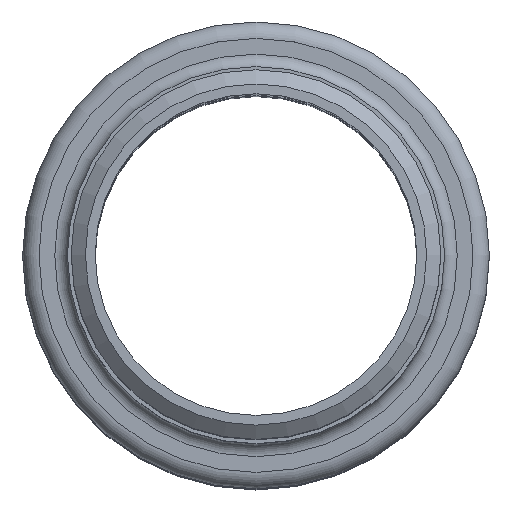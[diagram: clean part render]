
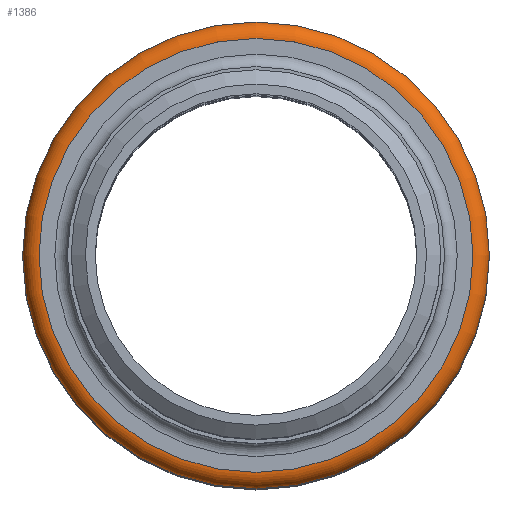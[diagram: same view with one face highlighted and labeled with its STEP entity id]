
A CAD part, top view. The second image highlights one B-rep face of the part: STEP entity #1386.
In plain terms, the highlighted toroidal (fillet/blend) face has major radius 35.414 mm and minor radius 2.686 mm.
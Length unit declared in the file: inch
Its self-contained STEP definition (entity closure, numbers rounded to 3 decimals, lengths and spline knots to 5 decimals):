
#104=TOROIDAL_SURFACE('',#1687,1.39425,0.10575);
#257=FACE_OUTER_BOUND('',#417,.T.);
#417=EDGE_LOOP('',(#1170,#1171,#1172,#1173));
#585=CIRCLE('',#1686,1.39425);
#586=CIRCLE('',#1688,1.39425);
#587=CIRCLE('',#1689,0.10575);
#704=VERTEX_POINT('',#2635);
#705=VERTEX_POINT('',#2638);
#863=EDGE_CURVE('',#704,#704,#585,.T.);
#864=EDGE_CURVE('',#705,#705,#586,.T.);
#865=EDGE_CURVE('',#705,#704,#587,.T.);
#1170=ORIENTED_EDGE('',*,*,#864,.F.);
#1171=ORIENTED_EDGE('',*,*,#865,.T.);
#1172=ORIENTED_EDGE('',*,*,#863,.T.);
#1173=ORIENTED_EDGE('',*,*,#865,.F.);
#1386=ADVANCED_FACE('',(#257),#104,.T.);
#1686=AXIS2_PLACEMENT_3D('',#2636,#2201,#2202);
#1687=AXIS2_PLACEMENT_3D('',#2637,#2203,#2204);
#1688=AXIS2_PLACEMENT_3D('',#2639,#2205,#2206);
#1689=AXIS2_PLACEMENT_3D('',#2640,#2207,#2208);
#2201=DIRECTION('center_axis',(0.,0.,-1.));
#2202=DIRECTION('ref_axis',(1.,0.,0.));
#2203=DIRECTION('center_axis',(0.,0.,-1.));
#2204=DIRECTION('ref_axis',(-1.,0.,0.));
#2205=DIRECTION('center_axis',(0.,0.,-1.));
#2206=DIRECTION('ref_axis',(1.,0.,0.));
#2207=DIRECTION('center_axis',(0.,-1.,0.));
#2208=DIRECTION('ref_axis',(1.,0.,0.));
#2635=CARTESIAN_POINT('',(1.39425,0.,-0.08175));
#2636=CARTESIAN_POINT('Origin',(0.,0.,-0.08175));
#2637=CARTESIAN_POINT('Origin',(0.,0.,-0.1875));
#2638=CARTESIAN_POINT('',(1.39425,0.,-0.29325));
#2639=CARTESIAN_POINT('Origin',(0.,0.,-0.29325));
#2640=CARTESIAN_POINT('Origin',(1.39425,0.,-0.1875));
